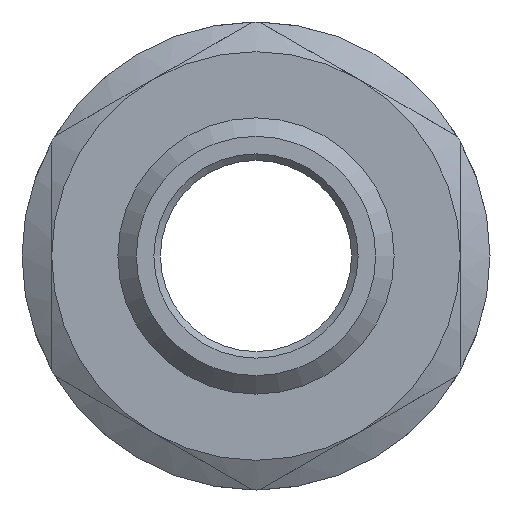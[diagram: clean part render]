
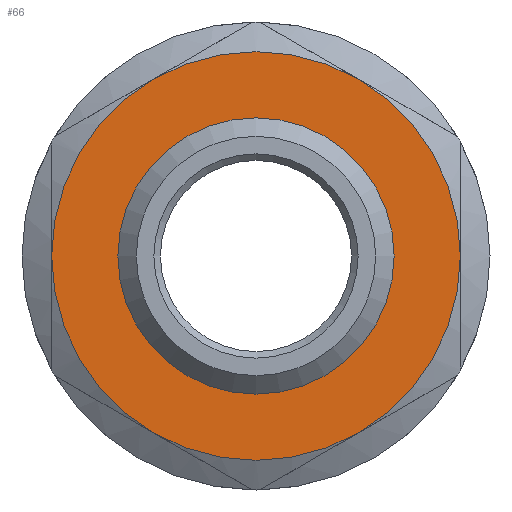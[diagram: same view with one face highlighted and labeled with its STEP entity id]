
A CAD part, front view. The second image highlights one B-rep face of the part: STEP entity #66.
In plain terms, the highlighted planar face has unit normal (0, -1, 0).
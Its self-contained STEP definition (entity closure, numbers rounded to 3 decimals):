
#66=ADVANCED_FACE('',(#240,#242),#244,.F.);
#240=FACE_BOUND('',#241,.T.);
#241=EDGE_LOOP('',(#390,#391,#392));
#242=FACE_BOUND('',#243,.T.);
#243=EDGE_LOOP('',(#393));
#244=PLANE('',#245);
#245=AXIS2_PLACEMENT_3D('',#246,#247,#248);
#246=CARTESIAN_POINT('',(0.,-15.,0.));
#247=DIRECTION('',(0.,1.,0.));
#248=DIRECTION('',(-1.,0.,0.));
#390=ORIENTED_EDGE('',*,*,#443,.T.);
#391=ORIENTED_EDGE('',*,*,#457,.T.);
#392=ORIENTED_EDGE('',*,*,#452,.T.);
#393=ORIENTED_EDGE('',*,*,#439,.F.);
#439=EDGE_CURVE('',#529,#529,#530,.T.);
#443=EDGE_CURVE('',#536,#534,#537,.F.);
#452=EDGE_CURVE('',#544,#536,#547,.F.);
#457=EDGE_CURVE('',#534,#544,#552,.F.);
#529=VERTEX_POINT('',#717);
#530=CIRCLE('',#718,10.478);
#534=VERTEX_POINT('',#770);
#536=VERTEX_POINT('',#807);
#537=CIRCLE('',#808,15.5);
#544=VERTEX_POINT('',#1055);
#547=CIRCLE('',#1142,15.5);
#552=CIRCLE('',#1312,15.5);
#717=CARTESIAN_POINT('',(10.478,-15.,0.));
#718=AXIS2_PLACEMENT_3D('',#719,#720,#721);
#719=CARTESIAN_POINT('',(0.,-15.,0.));
#720=DIRECTION('',(0.,-1.,0.));
#721=DIRECTION('',(1.,0.,0.));
#770=CARTESIAN_POINT('',(-15.5,-15.,0.));
#807=CARTESIAN_POINT('',(15.5,-15.,0.));
#808=AXIS2_PLACEMENT_3D('',#809,#810,#811);
#809=CARTESIAN_POINT('',(0.,-15.,0.));
#810=DIRECTION('',(0.,1.,0.));
#811=DIRECTION('',(-1.,0.,0.));
#1055=CARTESIAN_POINT('',(-7.75,-15.,-13.423));
#1142=AXIS2_PLACEMENT_3D('',#1143,#1144,#1145);
#1143=CARTESIAN_POINT('',(0.,-15.,0.));
#1144=DIRECTION('',(0.,1.,0.));
#1145=DIRECTION('',(1.,0.,0.));
#1312=AXIS2_PLACEMENT_3D('',#1313,#1314,#1315);
#1313=CARTESIAN_POINT('',(0.,-15.,0.));
#1314=DIRECTION('',(0.,1.,0.));
#1315=DIRECTION('',(-0.5,0.,-0.866));
